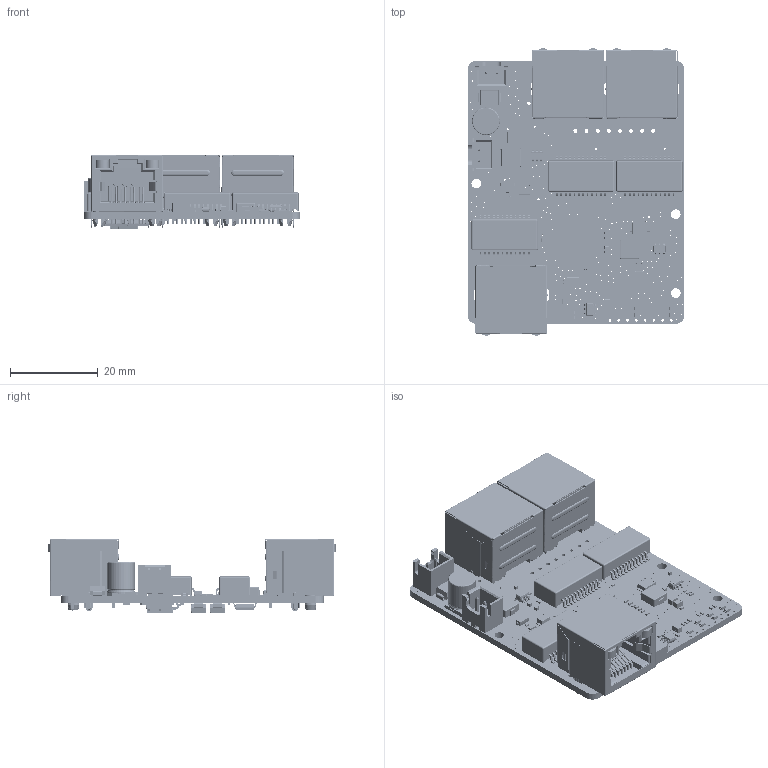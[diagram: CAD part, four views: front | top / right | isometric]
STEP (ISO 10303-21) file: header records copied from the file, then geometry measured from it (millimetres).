
FILE_DESCRIPTION(('Designed by EasyEDA Pro'),'2;1');
FILE_NAME('Open CASCADE Shape Model','2026-06-25T22:36:50',('Author'),( 'Open CASCADE'),'Open CASCADE STEP processor 7.8','Open CASCADE 7.8' ,'Unknown');
FILE_SCHEMA(('AUTOMOTIVE_DESIGN { 1 0 10303 214 1 1 1 1 }'));
Length unit declared in the file: millimetre
Products named in the file (829): EasyEDA PCB Model~pkOY; Board~pkOY; TopCopper~pkOY; BottomCopper~pkOY; TopSilkscreen~pkOY; BottomSilkscreen~pkOY; TopFpcStiffener~pkOY; BottomFpcStiffener~pkOY; C1~1206~C1206_L3.2-W1.6-H1.3_1~pkOY; 1206~C1206_L3.2-W1.6-H1.3_1~pkOY; C4~1206~C1206_L3.2-W1.6-H1.3_1~pkOY; C6~1206~C1206_L3.2-W1.6-H1.3_1~pkOY; C23~1206~C1206_L3.2-W1.6-H1.3_1~pkOY; C8~1206~C1206_L3.2-W1.6-H1.3_1~pkOY; C9~1206~C1206_L3.2-W1.6-H1.3_1~pkOY; C11~1206~C1206_L3.2-W1.6-H1.3_1~pkOY; C12~1206~C1206_L3.2-W1.6-H1.3_1~pkOY; 0402~C0402~eCw1; C36~0402~C0402~Z2ox; C37~0402~C0402~CdFp; C39~0402~C0402~rHIM; C100~C0402~C0402~TQKK; C101~C0402~C0402~ZaXI; C103~C0402~C0402~VS2p; C104~C0402~C0402~f6xv; C105~C0402~C0402~T04M; C108~C0402~C0402~DKyx; C109~C0402~C0402~gstl; C110~C0402~C0402~ejoC; C111~C0402~C0402~lfOu; C112~C0402~C0402~mYy6; C113~C0402~C0402~aUNz; C117~C0402~C0402~FRlk; C118~C0402~C0402~2Pj8; C127~C0402~C0402~wb5l; C2~C0402~C0402~Fd5g; C94~C0402~C0402~XnLl; C96~C0402~C0402~upWo; C97~C0402~C0402~XG5u; C98~C0402~C0402~2NBm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
Assembly tree (902 placements, depth 3):
  EasyEDA PCB Model~pkOY
    Board~pkOY
    TopCopper~pkOY
      TopCopper~pkOY
      TopCopper~pkOY
      TopCopper~pkOY
      TopCopper~pkOY
      TopCopper~pkOY
      TopCopper~pkOY
      TopCopper~pkOY
      TopCopper~pkOY
      TopCopper~pkOY
      TopCopper~pkOY
      TopCopper~pkOY
      TopCopper~pkOY
      TopCopper~pkOY
      TopCopper~pkOY
      TopCopper~pkOY
      TopCopper~pkOY
      TopCopper~pkOY
      TopCopper~pkOY
      TopCopper~pkOY
      TopCopper~pkOY
      TopCopper~pkOY
      TopCopper~pkOY
      TopCopper~pkOY
      TopCopper~pkOY
      TopCopper~pkOY
      TopCopper~pkOY
      TopCopper~pkOY
      TopCopper~pkOY
      TopCopper~pkOY
      TopCopper~pkOY
      TopCopper~pkOY
      TopCopper~pkOY
      TopCopper~pkOY
      TopCopper~pkOY
      TopCopper~pkOY
      TopCopper~pkOY
      TopCopper~pkOY
      TopCopper~pkOY
      TopCopper~pkOY
      TopCopper~pkOY
      TopCopper~pkOY
      TopCopper~pkOY
      TopCopper~pkOY
      TopCopper~pkOY
      TopCopper~pkOY
      TopCopper~pkOY
      TopCopper~pkOY
      TopCopper~pkOY
      TopCopper~pkOY
      TopCopper~pkOY
      TopCopper~pkOY
      TopCopper~pkOY
      TopCopper~pkOY
      TopCopper~pkOY
      TopCopper~pkOY
      TopCopper~pkOY
      TopCopper~pkOY
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Bounding box: 49.47 x 65.55 x 17 mm (x, y, z)
Volume: 6886.1 mm3; surface area: 30060.4 mm2
Topology: 348 solids, 1119 shells, 34831 faces, 139323 edges, 107584 vertices
Faces by surface type: plane 18343, bspline 12381, cylinder 3408, sphere 445, torus 254
Full cylindrical faces by diameter (mm): 0.181 x1
Entity records: 871845 total; most frequent: CARTESIAN_POINT 209230, ORIENTED_EDGE 102962, DIRECTION 93684, EDGE_CURVE 75233, VERTEX_POINT 65660, LINE 57694, VECTOR 57694, AXIS2_PLACEMENT_3D 17995
